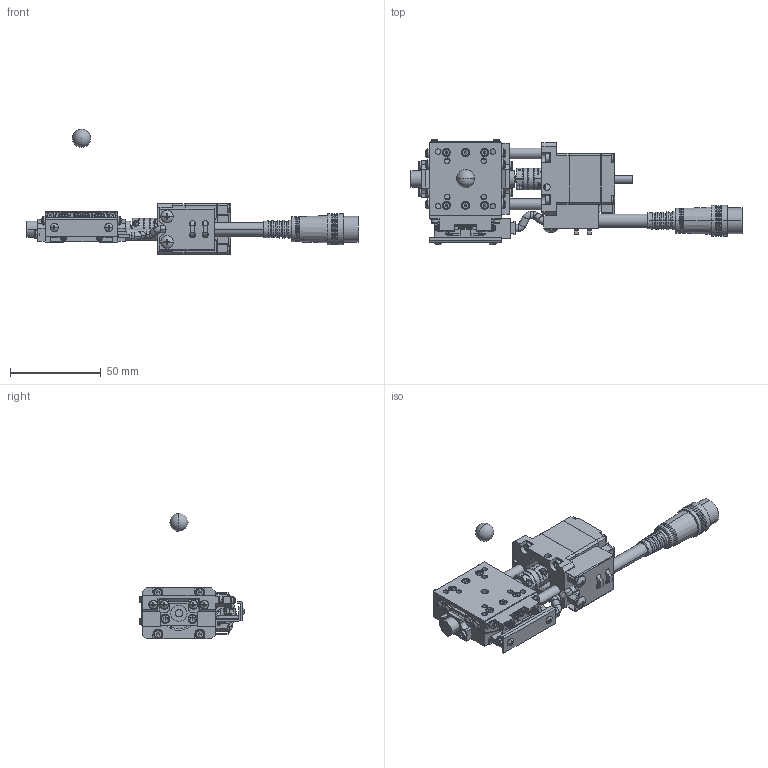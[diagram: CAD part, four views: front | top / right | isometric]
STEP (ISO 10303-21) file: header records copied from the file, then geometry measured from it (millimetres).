
FILE_DESCRIPTION (( 'STEP AP203' ), '1' );
FILE_NAME ('SA04B-RT02-R.STEP', '2019-02-20T06:38:36', ( '' ), ( '' ), 'SwSTEP 2.0', 'SolidWorks 2018', '' );
FILE_SCHEMA (( 'CONFIG_CONTROL_DESIGN' ));
Length unit declared in the file: millimetre
Products named in the file (9): base; SA04B-RT02-R; base-Part-2; base-Part-3; table; base-Part-5; rotation center; base-Part-1; base-Part-4
Assembly tree (8 placements, depth 3):
  SA04B-RT02-R
    base
      base-Part-1
      base-Part-2
      base-Part-3
      base-Part-4
      base-Part-5
    rotation center
    table
Bounding box: 182.5 x 57.96 x 69 mm (x, y, z)
Volume: 75477.9 mm3; surface area: 37566.8 mm2
Topology: 9 solids, 9 shells, 2535 faces, 6441 edges, 4034 vertices
Faces by surface type: plane 1610, cylinder 579, cone 230, torus 64, sphere 46, bspline 6
Entity records: 79402 total; most frequent: CARTESIAN_POINT 16273, DIRECTION 13345, ORIENTED_EDGE 12720, EDGE_CURVE 6360, AXIS2_PLACEMENT_3D 4631, LINE 4083, VECTOR 4083, VERTEX_POINT 4021
